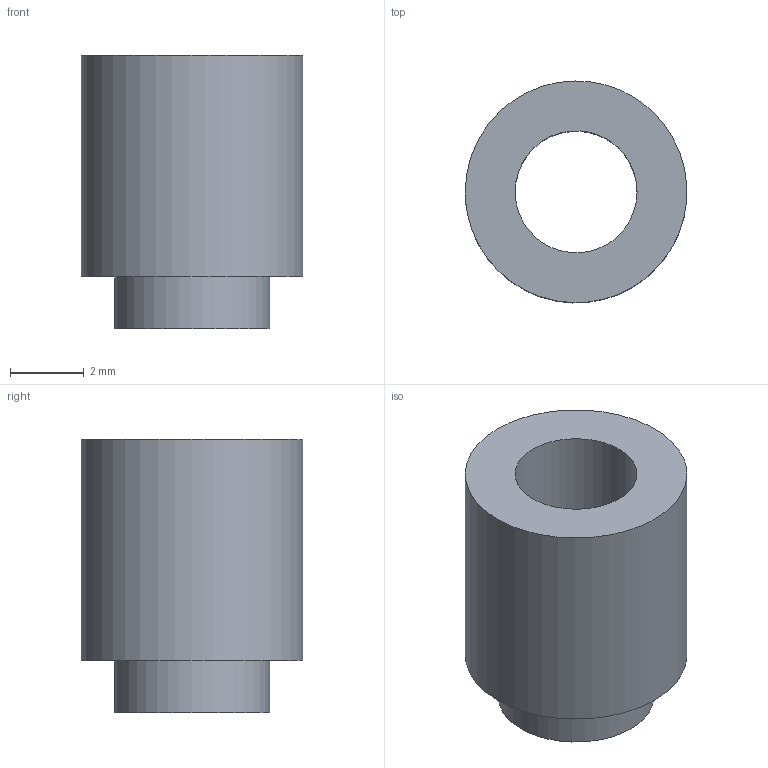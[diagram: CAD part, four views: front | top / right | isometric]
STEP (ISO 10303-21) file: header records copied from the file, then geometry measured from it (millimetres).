
FILE_DESCRIPTION(('FreeCAD Model'),'2;1');
FILE_NAME('Open CASCADE Shape Model','2026-03-20T17:23:18',('Author'),( ''),'Open CASCADE STEP processor 7.8','FreeCAD','Unknown');
FILE_SCHEMA(('AP242_MANAGED_MODEL_BASED_3D_ENGINEERING_MIM_LF. {1 0 10303 442 1 1 4 }'));
Length unit declared in the file: millimetre
Products named in the file (1): 1_transformed
Bounding box: 5.99 x 6 x 7.4 mm (x, y, z)
Volume: 126.8 mm3; surface area: 248.3 mm2
Topology: 1 solids, 1 shells, 6 faces, 9 edges, 6 vertices
Faces by surface type: bspline 6
Entity records: 201 total; most frequent: CARTESIAN_POINT 109, ORIENTED_EDGE 18, FACE_BOUND 9, EDGE_LOOP 9, EDGE_CURVE 9, ADVANCED_FACE 6, VERTEX_POINT 6, B_SPLINE_SURFACE_WITH_KNOTS 3
